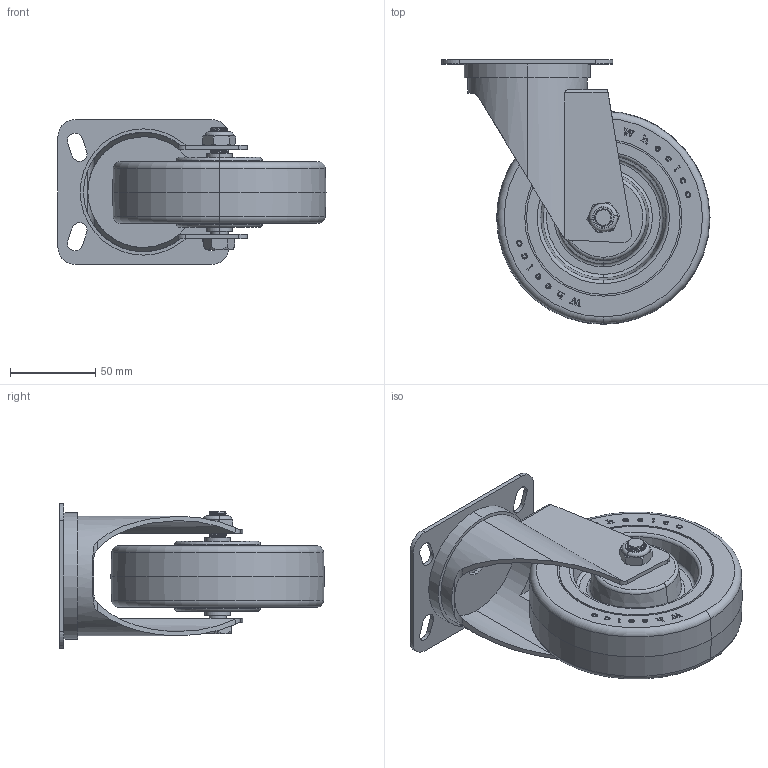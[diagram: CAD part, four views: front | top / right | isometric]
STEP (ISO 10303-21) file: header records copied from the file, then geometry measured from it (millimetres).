
FILE_DESCRIPTION (( 'STEP AP214' ), '1' );
FILE_NAME ('MDB125-P.step', '2024-01-21T22:14:37', ( '' ), ( '' ), 'SwSTEP 2.0', 'SolidWorks 2022', '' );
FILE_SCHEMA (( 'AUTOMOTIVE_DESIGN' ));
Length unit declared in the file: millimetre
Products named in the file (7): MS125-SP; M10-Nyloc; 100X85 ANGLED; MDB125-P; MCB125; SP15-10-47; M10X65
Assembly tree (6 placements, depth 2):
  MDB125-P
    100X85 ANGLED
    MS125-SP
    M10X65
    M10-Nyloc
    SP15-10-47
    MCB125
Bounding box: 157 x 155 x 85 mm (x, y, z)
Volume: 466199.6 mm3; surface area: 113413.5 mm2
Topology: 6 solids, 6 shells, 866 faces, 2337 edges, 1546 vertices
Faces by surface type: plane 422, bspline 251, cylinder 134, cone 33, torus 26
Entity records: 47476 total; most frequent: CARTESIAN_POINT 26085, ORIENTED_EDGE 4674, DIRECTION 3094, EDGE_CURVE 2337, VERTEX_POINT 1546, VECTOR 1420, LINE 1420, EDGE_LOOP 949
